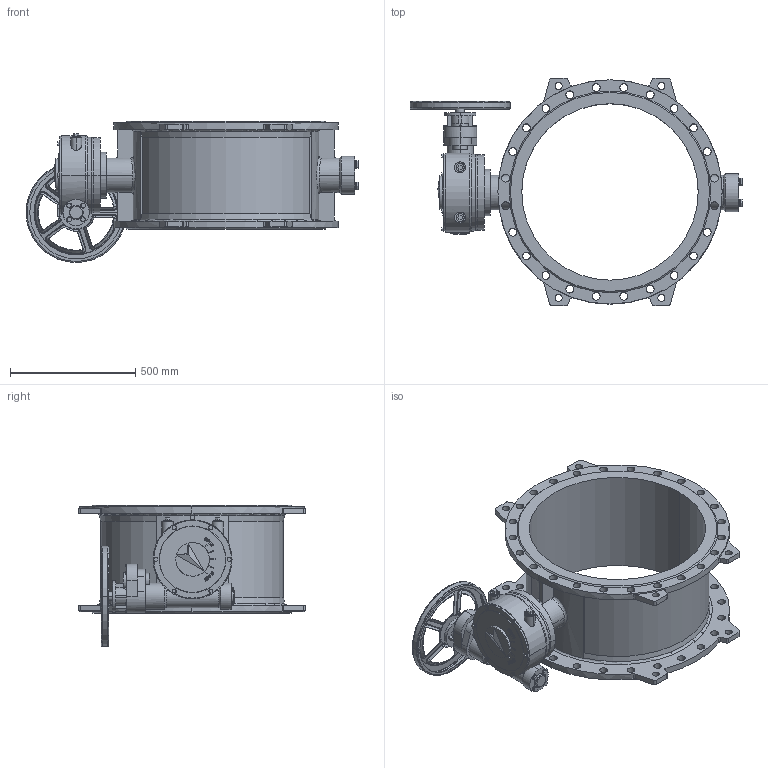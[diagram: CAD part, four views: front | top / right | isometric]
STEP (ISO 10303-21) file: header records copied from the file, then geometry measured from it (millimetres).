
FILE_DESCRIPTION (( 'STEP AP203' ), '1' );
FILE_NAME ('DN700 PN10.STEP', '2014-09-30T02:17:59', ( '微软用户' ), ( 'Sky123.Org' ), 'SwSTEP 2.0', 'SolidWorks 2012', '' );
FILE_SCHEMA (( 'CONFIG_CONTROL_DESIGN' ));
Length unit declared in the file: millimetre
Products named in the file (1): DN700 PN10
Bounding box: 1324.6 x 905 x 563 mm (x, y, z)
Volume: 47681817.8 mm3; surface area: 4127340.8 mm2
Topology: 2 solids, 3 shells, 1074 faces, 2701 edges, 1741 vertices
Faces by surface type: plane 481, cylinder 333, bspline 209, torus 28, cone 23
Entity records: 54386 total; most frequent: CARTESIAN_POINT 29193, ORIENTED_EDGE 5402, DIRECTION 4806, EDGE_CURVE 2701, VERTEX_POINT 1741, AXIS2_PLACEMENT_3D 1725, VECTOR 1356, LINE 1356
